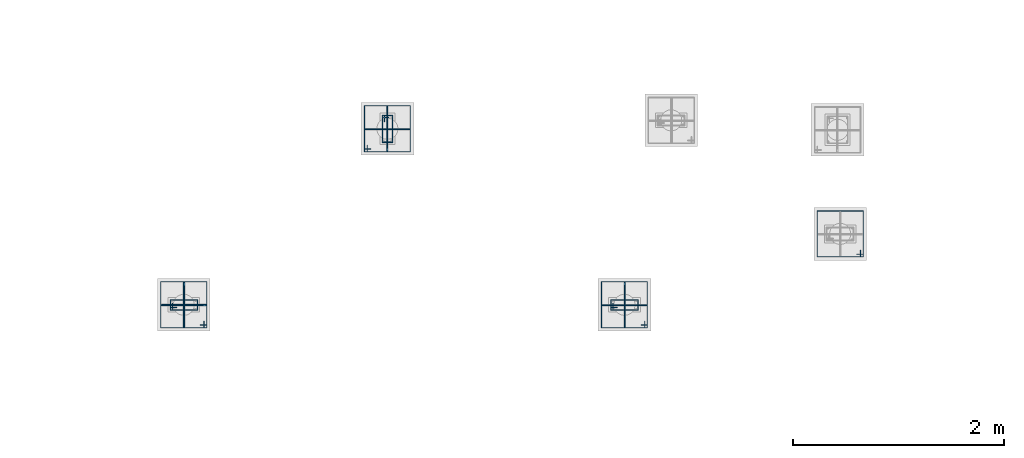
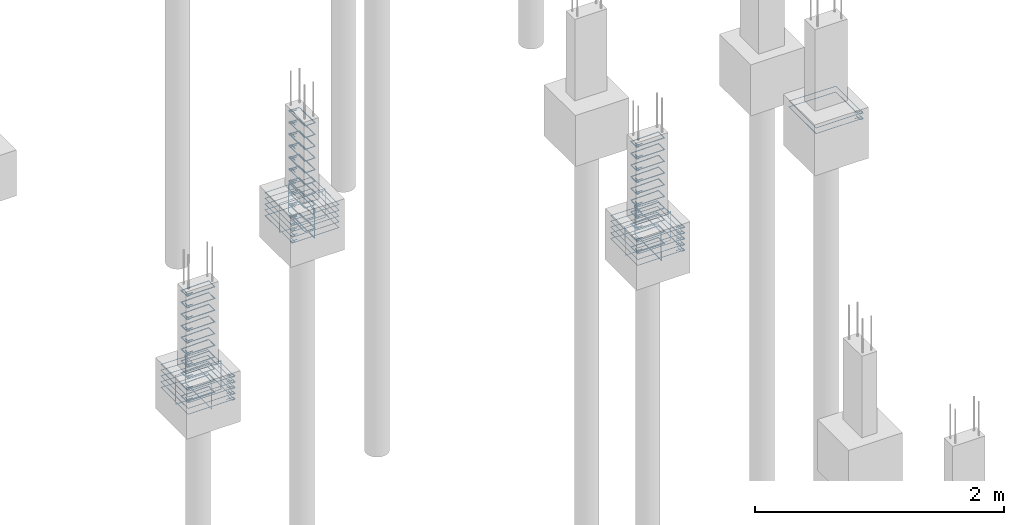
# One storey, part 89 of 119: 53 reinforcing bars.
"""IFC4 building model written with IfcOpenShell, lengths in centimetres."""

from ifc_helpers import new_model, entity, si_unit, derived_unit, frame, origin_with_axes, place, context, project, spatial, source, transform, mapped, element, save


model = new_model("IFC4")

# Units and contexts
model_context = context("Model", 3, precision=1e-05, world=origin_with_axes(), identifier="Body")
ifc_project = project(units=[si_unit("LENGTHUNIT", "METRE", prefix="CENTI"), si_unit("VOLUMEUNIT", "CUBIC_METRE"), si_unit("AREAUNIT", "SQUARE_METRE"), si_unit("POWERUNIT", "WATT"), si_unit("LUMINOUSFLUXUNIT", "LUMEN"), si_unit("ELECTRICCURRENTUNIT", "AMPERE"), si_unit("PRESSUREUNIT", "PASCAL", prefix="KILO"), si_unit("MASSUNIT", "GRAM", prefix="KILO"), si_unit("PLANEANGLEUNIT", "RADIAN"), derived_unit("VOLUMETRICFLOWRATEUNIT", [(si_unit("LENGTHUNIT", "METRE"), 3), (si_unit("TIMEUNIT", "SECOND"), -1)])], contexts=[model_context])

# Site, building, storey
site_placement = place(None, frame((-4000.0, 0.0, 0.0), z_axis=(0.0, 0.0, 1.0), x_axis=(1.0, 0.0, 0.0)))
site = spatial("IfcSite", under=ifc_project, at=site_placement, Name="PADRÃO")
building_placement = place(site_placement, frame((0.0, 0.0, -14.0)))
building = spatial("IfcBuilding", under=site, at=building_placement, Name="CRECHE PRÉ-ESCOLA TIPO 2")
storey_placement = place(building_placement, origin_with_axes())
storey = spatial("IfcBuildingStorey", under=building, at=storey_placement, Name="FUNDAÇÃO", CompositionType="ELEMENT", Elevation=-14.0)

# Reinforcing bars
shared_shape_1 = source(origin_with_axes(), model_context, "Body", "AdvancedSweptSolid", [
    entity("IfcSweptDiskSolid", entity("IfcCompositeCurve", [entity("IfcCompositeCurveSegment", "CONTINUOUS", True, entity("IfcPolyline", [entity("IfcCartesianPoint", [4.25, 21.75, 0.0]), entity("IfcCartesianPoint", [4.25, 27.75, 0.0])])), entity("IfcCompositeCurveSegment", "CONTINUOUS", True, entity("IfcPolyline", [entity("IfcCartesianPoint", [4.25, 27.75, 0.0]), entity("IfcCartesianPoint", [2.25, 27.75, 0.0])])), entity("IfcCompositeCurveSegment", "CONTINUOUS", True, entity("IfcPolyline", [entity("IfcCartesianPoint", [2.25, 27.75, 0.0]), entity("IfcCartesianPoint", [2.25, 2.25, 0.0])])), entity("IfcCompositeCurveSegment", "CONTINUOUS", True, entity("IfcPolyline", [entity("IfcCartesianPoint", [2.25, 2.25, 0.0]), entity("IfcCartesianPoint", [11.75, 2.25, 0.0])])), entity("IfcCompositeCurveSegment", "CONTINUOUS", True, entity("IfcPolyline", [entity("IfcCartesianPoint", [11.75, 2.25, 0.0]), entity("IfcCartesianPoint", [11.75, 27.75, -0.5])])), entity("IfcCompositeCurveSegment", "CONTINUOUS", True, entity("IfcPolyline", [entity("IfcCartesianPoint", [11.75, 27.75, -0.5]), entity("IfcCartesianPoint", [2.25, 27.75, -0.5])])), entity("IfcCompositeCurveSegment", "CONTINUOUS", True, entity("IfcPolyline", [entity("IfcCartesianPoint", [2.25, 27.75, -0.5]), entity("IfcCartesianPoint", [2.25, 25.75, -0.5])])), entity("IfcCompositeCurveSegment", "CONTINUOUS", True, entity("IfcPolyline", [entity("IfcCartesianPoint", [2.25, 25.75, -0.5]), entity("IfcCartesianPoint", [8.25, 25.75, -0.5])]))], False), 0.25),
])
for number, where, z_axis, x_axis, name in (
    (1, (2541.0, 1740.84, -86.25), (0.0, 0.0, 1.0), (0.0, 1.0, 0.0), "P98 - Estribo"),
    (2, (2541.0, 1740.84, -28.75), (0.0, 0.0, 1.0), (0.0, 1.0, 0.0), "P98 - Estribo"),
    (3, (2541.0, 1740.84, -40.25), (0.0, 0.0, 1.0), (0.0, 1.0, 0.0), "P98 - Estribo"),
    (4, (2541.0, 1740.84, -17.25), (0.0, 0.0, 1.0), (0.0, 1.0, 0.0), "P98 - Estribo"),
    (5, (2541.0, 1740.84, -5.75), (0.0, 0.0, 1.0), (0.0, 1.0, 0.0), "P98 - Estribo"),
    (6, (2541.0, 1740.84, -109.25), (0.0, 0.0, 1.0), (0.0, 1.0, 0.0), "P98 - Estribo"),
    (7, (2541.0, 1740.84, -74.75), (0.0, 0.0, 1.0), (0.0, 1.0, 0.0), "P98 - Estribo"),
    (8, (2541.0, 1740.84, -63.25), (0.0, 0.0, 1.0), (0.0, 1.0, 0.0), "P98 - Estribo"),
    (9, (2541.0, 1740.84, -51.75), (0.0, 0.0, 1.0), (0.0, 1.0, 0.0), "P98 - Estribo"),
    (10, (2541.0, 1740.84, -97.75), (0.0, 0.0, 1.0), (0.0, 1.0, 0.0), "P98 - Estribo"),
):
    element("IfcReinforcingBar", number, at=place(storey_placement, frame(where, z_axis=z_axis, x_axis=x_axis)), inside=storey, Name=name, BarLength=0.0, CrossSectionArea=1.9634954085e-05, NominalDiameter=0.5, PredefinedType="MAIN", context=model_context, shape_type="MappedRepresentation", body=[
        mapped(shared_shape_1, transform((0.0, 0.0, 0.0), scale=1.0)),
    ])
shared_shape_2 = source(origin_with_axes(), model_context, "Body", "AdvancedSweptSolid", [
    entity("IfcSweptDiskSolid", entity("IfcCompositeCurve", [entity("IfcCompositeCurveSegment", "CONTINUOUS", True, entity("IfcPolyline", [entity("IfcCartesianPoint", [2545.165, 1732.415, 0.0]), entity("IfcCartesianPoint", [2545.165, 1726.155, 0.0])])), entity("IfcCompositeCurveSegment", "CONTINUOUS", True, entity("IfcPolyline", [entity("IfcCartesianPoint", [2545.165, 1726.155, 0.0]), entity("IfcCartesianPoint", [2547.685, 1726.155, 0.0])])), entity("IfcCompositeCurveSegment", "CONTINUOUS", True, entity("IfcPolyline", [entity("IfcCartesianPoint", [2547.685, 1726.155, 0.0]), entity("IfcCartesianPoint", [2547.685, 1769.525, 0.0])])), entity("IfcCompositeCurveSegment", "CONTINUOUS", True, entity("IfcPolyline", [entity("IfcCartesianPoint", [2547.685, 1769.525, 0.0]), entity("IfcCartesianPoint", [2504.315, 1769.525, 0.63])])), entity("IfcCompositeCurveSegment", "CONTINUOUS", True, entity("IfcPolyline", [entity("IfcCartesianPoint", [2504.315, 1769.525, 0.63]), entity("IfcCartesianPoint", [2504.315, 1726.155, 0.63])])), entity("IfcCompositeCurveSegment", "CONTINUOUS", True, entity("IfcPolyline", [entity("IfcCartesianPoint", [2504.315, 1726.155, 0.63]), entity("IfcCartesianPoint", [2547.685, 1726.155, 0.63])])), entity("IfcCompositeCurveSegment", "CONTINUOUS", True, entity("IfcPolyline", [entity("IfcCartesianPoint", [2547.685, 1726.155, 0.63]), entity("IfcCartesianPoint", [2547.685, 1728.675, 0.63])])), entity("IfcCompositeCurveSegment", "CONTINUOUS", True, entity("IfcPolyline", [entity("IfcCartesianPoint", [2547.685, 1728.675, 0.63]), entity("IfcCartesianPoint", [2541.425, 1728.675, 0.63])]))], False), 0.315),
])
for number, where, z_axis, x_axis, name in (
    (11, (0.0, 0.0, -97.875), (0.0, 0.0, 1.0), (1.0, 0.0, 0.0), "P98 - Blocos (estribos)"),
    (12, (0.0, 0.0, -109.175), (0.0, 0.0, 1.0), (1.0, 0.0, 0.0), "P98 - Blocos (estribos)"),
    (13, (0.0, 0.0, -103.525), (0.0, 0.0, 1.0), (1.0, 0.0, 0.0), "P98 - Blocos (estribos)"),
    (14, (0.0, 0.0, -92.225), (0.0, 0.0, 1.0), (1.0, 0.0, 0.0), "P98 - Blocos (estribos)"),
    (15, (0.0, 0.0, -86.575), (0.0, 0.0, 1.0), (1.0, 0.0, 0.0), "P98 - Blocos (estribos)"),
):
    element("IfcReinforcingBar", number, at=place(storey_placement, frame(where, z_axis=z_axis, x_axis=x_axis)), inside=storey, Name=name, BarLength=0.0, CrossSectionArea=3.1172453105e-05, NominalDiameter=0.63, PredefinedType="MAIN", context=model_context, shape_type="MappedRepresentation", body=[
        mapped(shared_shape_2, transform((0.0, 0.0, 0.0), scale=1.0)),
    ])
shared_shape_3 = source(origin_with_axes(), model_context, "Body", "AdvancedSweptSolid", [
    entity("IfcSweptDiskSolid", entity("IfcCompositeCurve", [entity("IfcCompositeCurveSegment", "CONTINUOUS", True, entity("IfcPolyline", [entity("IfcCartesianPoint", [-14.795, -11.35, 0.0]), entity("IfcCartesianPoint", [-21.055, -11.35, 0.0])])), entity("IfcCompositeCurveSegment", "CONTINUOUS", True, entity("IfcPolyline", [entity("IfcCartesianPoint", [-21.055, -11.35, 0.0]), entity("IfcCartesianPoint", [-21.055, -13.87, 0.0])])), entity("IfcCompositeCurveSegment", "CONTINUOUS", True, entity("IfcPolyline", [entity("IfcCartesianPoint", [-21.055, -13.87, 0.0]), entity("IfcCartesianPoint", [21.055, -13.87, 0.0])])), entity("IfcCompositeCurveSegment", "CONTINUOUS", True, entity("IfcPolyline", [entity("IfcCartesianPoint", [21.055, -13.87, 0.0]), entity("IfcCartesianPoint", [21.055, 13.87, 0.63])])), entity("IfcCompositeCurveSegment", "CONTINUOUS", True, entity("IfcPolyline", [entity("IfcCartesianPoint", [21.055, 13.87, 0.63]), entity("IfcCartesianPoint", [-21.055, 13.87, 0.63])])), entity("IfcCompositeCurveSegment", "CONTINUOUS", True, entity("IfcPolyline", [entity("IfcCartesianPoint", [-21.055, 13.87, 0.63]), entity("IfcCartesianPoint", [-21.055, -13.87, 0.63])])), entity("IfcCompositeCurveSegment", "CONTINUOUS", True, entity("IfcPolyline", [entity("IfcCartesianPoint", [-21.055, -13.87, 0.63]), entity("IfcCartesianPoint", [-18.535, -13.87, 0.63])])), entity("IfcCompositeCurveSegment", "CONTINUOUS", True, entity("IfcPolyline", [entity("IfcCartesianPoint", [-18.535, -13.87, 0.63]), entity("IfcCartesianPoint", [-18.535, -7.61, 0.63])]))], False), 0.315),
])
reinforcing_bar_1_placement = place(storey_placement, frame((2526.0, 1747.84, -97.815), z_axis=(0.0, -1.0, 0.0), x_axis=(-1.0, 0.0, 0.0)))
element("IfcReinforcingBar", 16, at=reinforcing_bar_1_placement, inside=storey, Name="P98 - Blocos (estribos)", BarLength=0.0, CrossSectionArea=3.1172453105e-05, NominalDiameter=0.63, PredefinedType="MAIN", context=model_context, shape_type="MappedRepresentation", body=[
    mapped(shared_shape_3, transform((0.0, 0.0, 0.0), scale=1.0)),
])
shared_shape_4 = source(origin_with_axes(), model_context, "Body", "AdvancedSweptSolid", [
    entity("IfcSweptDiskSolid", entity("IfcCompositeCurve", [entity("IfcCompositeCurveSegment", "CONTINUOUS", True, entity("IfcPolyline", [entity("IfcCartesianPoint", [-14.795, -11.35, 0.0]), entity("IfcCartesianPoint", [-21.055, -11.35, 0.0])])), entity("IfcCompositeCurveSegment", "CONTINUOUS", True, entity("IfcPolyline", [entity("IfcCartesianPoint", [-21.055, -11.35, 0.0]), entity("IfcCartesianPoint", [-21.055, -13.87, 0.0])])), entity("IfcCompositeCurveSegment", "CONTINUOUS", True, entity("IfcPolyline", [entity("IfcCartesianPoint", [-21.055, -13.87, 0.0]), entity("IfcCartesianPoint", [21.055, -13.87, 0.0])])), entity("IfcCompositeCurveSegment", "CONTINUOUS", True, entity("IfcPolyline", [entity("IfcCartesianPoint", [21.055, -13.87, 0.0]), entity("IfcCartesianPoint", [21.055, 13.87, 0.63])])), entity("IfcCompositeCurveSegment", "CONTINUOUS", True, entity("IfcPolyline", [entity("IfcCartesianPoint", [21.055, 13.87, 0.63]), entity("IfcCartesianPoint", [-21.055, 13.87, 0.63])])), entity("IfcCompositeCurveSegment", "CONTINUOUS", True, entity("IfcPolyline", [entity("IfcCartesianPoint", [-21.055, 13.87, 0.63]), entity("IfcCartesianPoint", [-21.055, -13.87, 0.63])])), entity("IfcCompositeCurveSegment", "CONTINUOUS", True, entity("IfcPolyline", [entity("IfcCartesianPoint", [-21.055, -13.87, 0.63]), entity("IfcCartesianPoint", [-18.535, -13.87, 0.63])])), entity("IfcCompositeCurveSegment", "CONTINUOUS", True, entity("IfcPolyline", [entity("IfcCartesianPoint", [-18.535, -13.87, 0.63]), entity("IfcCartesianPoint", [-18.535, -7.61, 0.63])]))], False), 0.315),
])
reinforcing_bar_2_placement = place(storey_placement, frame((2526.0, 1747.84, -97.815), z_axis=(1.0, 0.0, 0.0), x_axis=(0.0, -1.0, 0.0)))
element("IfcReinforcingBar", 17, at=reinforcing_bar_2_placement, inside=storey, Name="P98 - Blocos (estribos)", BarLength=0.0, CrossSectionArea=3.1172453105e-05, NominalDiameter=0.63, PredefinedType="MAIN", context=model_context, shape_type="MappedRepresentation", body=[
    mapped(shared_shape_4, transform((0.0, 0.0, 0.0), scale=1.0)),
])
shared_shape_5 = source(origin_with_axes(), model_context, "Body", "AdvancedSweptSolid", [
    entity("IfcSweptDiskSolid", entity("IfcCompositeCurve", [entity("IfcCompositeCurveSegment", "CONTINUOUS", True, entity("IfcPolyline", [entity("IfcCartesianPoint", [4.25, 21.75, 0.0]), entity("IfcCartesianPoint", [4.25, 27.75, 0.0])])), entity("IfcCompositeCurveSegment", "CONTINUOUS", True, entity("IfcPolyline", [entity("IfcCartesianPoint", [4.25, 27.75, 0.0]), entity("IfcCartesianPoint", [2.25, 27.75, 0.0])])), entity("IfcCompositeCurveSegment", "CONTINUOUS", True, entity("IfcPolyline", [entity("IfcCartesianPoint", [2.25, 27.75, 0.0]), entity("IfcCartesianPoint", [2.25, 2.25, 0.0])])), entity("IfcCompositeCurveSegment", "CONTINUOUS", True, entity("IfcPolyline", [entity("IfcCartesianPoint", [2.25, 2.25, 0.0]), entity("IfcCartesianPoint", [11.75, 2.25, 0.0])])), entity("IfcCompositeCurveSegment", "CONTINUOUS", True, entity("IfcPolyline", [entity("IfcCartesianPoint", [11.75, 2.25, 0.0]), entity("IfcCartesianPoint", [11.75, 27.75, -0.5])])), entity("IfcCompositeCurveSegment", "CONTINUOUS", True, entity("IfcPolyline", [entity("IfcCartesianPoint", [11.75, 27.75, -0.5]), entity("IfcCartesianPoint", [2.25, 27.75, -0.5])])), entity("IfcCompositeCurveSegment", "CONTINUOUS", True, entity("IfcPolyline", [entity("IfcCartesianPoint", [2.25, 27.75, -0.5]), entity("IfcCartesianPoint", [2.25, 25.75, -0.5])])), entity("IfcCompositeCurveSegment", "CONTINUOUS", True, entity("IfcPolyline", [entity("IfcCartesianPoint", [2.25, 25.75, -0.5]), entity("IfcCartesianPoint", [8.25, 25.75, -0.5])]))], False), 0.25),
])
for number, where, z_axis, x_axis, name in (
    (18, (2711.75, 1899.52, -51.75), (0.0, 0.0, 1.0), (1.0, 0.0, 0.0), "P90 - Estribo"),
    (19, (2711.75, 1899.52, -63.25), (0.0, 0.0, 1.0), (1.0, 0.0, 0.0), "P90 - Estribo"),
    (20, (2711.75, 1899.52, -74.75), (0.0, 0.0, 1.0), (1.0, 0.0, 0.0), "P90 - Estribo"),
    (21, (2711.75, 1899.52, -86.25), (0.0, 0.0, 1.0), (1.0, 0.0, 0.0), "P90 - Estribo"),
    (22, (2711.75, 1899.52, -97.75), (0.0, 0.0, 1.0), (1.0, 0.0, 0.0), "P90 - Estribo"),
    (23, (2711.75, 1899.52, -109.25), (0.0, 0.0, 1.0), (1.0, 0.0, 0.0), "P90 - Estribo"),
    (24, (2711.75, 1899.52, -40.25), (0.0, 0.0, 1.0), (1.0, 0.0, 0.0), "P90 - Estribo"),
    (25, (2711.75, 1899.52, -5.75), (0.0, 0.0, 1.0), (1.0, 0.0, 0.0), "P90 - Estribo"),
    (26, (2711.75, 1899.52, -17.25), (0.0, 0.0, 1.0), (1.0, 0.0, 0.0), "P90 - Estribo"),
    (27, (2711.75, 1899.52, -28.75), (0.0, 0.0, 1.0), (1.0, 0.0, 0.0), "P90 - Estribo"),
):
    element("IfcReinforcingBar", number, at=place(storey_placement, frame(where, z_axis=z_axis, x_axis=x_axis)), inside=storey, Name=name, BarLength=0.0, CrossSectionArea=1.9634954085e-05, NominalDiameter=0.5, PredefinedType="MAIN", context=model_context, shape_type="MappedRepresentation", body=[
        mapped(shared_shape_5, transform((0.0, 0.0, 0.0), scale=1.0)),
    ])
shared_shape_6 = source(origin_with_axes(), model_context, "Body", "AdvancedSweptSolid", [
    entity("IfcSweptDiskSolid", entity("IfcCompositeCurve", [entity("IfcCompositeCurveSegment", "CONTINUOUS", True, entity("IfcPolyline", [entity("IfcCartesianPoint", [2703.325, 1895.355, 0.0]), entity("IfcCartesianPoint", [2697.065, 1895.355, 0.0])])), entity("IfcCompositeCurveSegment", "CONTINUOUS", True, entity("IfcPolyline", [entity("IfcCartesianPoint", [2697.065, 1895.355, 0.0]), entity("IfcCartesianPoint", [2697.065, 1892.835, 0.0])])), entity("IfcCompositeCurveSegment", "CONTINUOUS", True, entity("IfcPolyline", [entity("IfcCartesianPoint", [2697.065, 1892.835, 0.0]), entity("IfcCartesianPoint", [2740.435, 1892.835, 0.0])])), entity("IfcCompositeCurveSegment", "CONTINUOUS", True, entity("IfcPolyline", [entity("IfcCartesianPoint", [2740.435, 1892.835, 0.0]), entity("IfcCartesianPoint", [2740.435, 1936.205, 0.63])])), entity("IfcCompositeCurveSegment", "CONTINUOUS", True, entity("IfcPolyline", [entity("IfcCartesianPoint", [2740.435, 1936.205, 0.63]), entity("IfcCartesianPoint", [2697.065, 1936.205, 0.63])])), entity("IfcCompositeCurveSegment", "CONTINUOUS", True, entity("IfcPolyline", [entity("IfcCartesianPoint", [2697.065, 1936.205, 0.63]), entity("IfcCartesianPoint", [2697.065, 1892.835, 0.63])])), entity("IfcCompositeCurveSegment", "CONTINUOUS", True, entity("IfcPolyline", [entity("IfcCartesianPoint", [2697.065, 1892.835, 0.63]), entity("IfcCartesianPoint", [2699.585, 1892.835, 0.63])])), entity("IfcCompositeCurveSegment", "CONTINUOUS", True, entity("IfcPolyline", [entity("IfcCartesianPoint", [2699.585, 1892.835, 0.63]), entity("IfcCartesianPoint", [2699.585, 1899.095, 0.63])]))], False), 0.315),
])
for number, where, z_axis, x_axis, name in (
    (28, (0.0, 0.0, -109.175), (0.0, 0.0, 1.0), (1.0, 0.0, 0.0), "P90 - Blocos (estribos)"),
    (29, (0.0, 0.0, -103.525), (0.0, 0.0, 1.0), (1.0, 0.0, 0.0), "P90 - Blocos (estribos)"),
    (30, (0.0, 0.0, -97.875), (0.0, 0.0, 1.0), (1.0, 0.0, 0.0), "P90 - Blocos (estribos)"),
    (31, (0.0, 0.0, -92.225), (0.0, 0.0, 1.0), (1.0, 0.0, 0.0), "P90 - Blocos (estribos)"),
    (32, (0.0, 0.0, -86.575), (0.0, 0.0, 1.0), (1.0, 0.0, 0.0), "P90 - Blocos (estribos)"),
):
    element("IfcReinforcingBar", number, at=place(storey_placement, frame(where, z_axis=z_axis, x_axis=x_axis)), inside=storey, Name=name, BarLength=0.0, CrossSectionArea=3.1172453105e-05, NominalDiameter=0.63, PredefinedType="MAIN", context=model_context, shape_type="MappedRepresentation", body=[
        mapped(shared_shape_6, transform((0.0, 0.0, 0.0), scale=1.0)),
    ])
shared_shape_7 = source(origin_with_axes(), model_context, "Body", "AdvancedSweptSolid", [
    entity("IfcSweptDiskSolid", entity("IfcCompositeCurve", [entity("IfcCompositeCurveSegment", "CONTINUOUS", True, entity("IfcPolyline", [entity("IfcCartesianPoint", [-15.12, -12.0, 0.0]), entity("IfcCartesianPoint", [-21.12, -12.0, 0.0])])), entity("IfcCompositeCurveSegment", "CONTINUOUS", True, entity("IfcPolyline", [entity("IfcCartesianPoint", [-21.12, -12.0, 0.0]), entity("IfcCartesianPoint", [-21.12, -14.0, 0.0])])), entity("IfcCompositeCurveSegment", "CONTINUOUS", True, entity("IfcPolyline", [entity("IfcCartesianPoint", [-21.12, -14.0, 0.0]), entity("IfcCartesianPoint", [21.12, -14.0, 0.0])])), entity("IfcCompositeCurveSegment", "CONTINUOUS", True, entity("IfcPolyline", [entity("IfcCartesianPoint", [21.12, -14.0, 0.0]), entity("IfcCartesianPoint", [21.12, 14.0, 0.5])])), entity("IfcCompositeCurveSegment", "CONTINUOUS", True, entity("IfcPolyline", [entity("IfcCartesianPoint", [21.12, 14.0, 0.5]), entity("IfcCartesianPoint", [-21.12, 14.0, 0.5])])), entity("IfcCompositeCurveSegment", "CONTINUOUS", True, entity("IfcPolyline", [entity("IfcCartesianPoint", [-21.12, 14.0, 0.5]), entity("IfcCartesianPoint", [-21.12, -14.0, 0.5])])), entity("IfcCompositeCurveSegment", "CONTINUOUS", True, entity("IfcPolyline", [entity("IfcCartesianPoint", [-21.12, -14.0, 0.5]), entity("IfcCartesianPoint", [-19.12, -14.0, 0.5])])), entity("IfcCompositeCurveSegment", "CONTINUOUS", True, entity("IfcPolyline", [entity("IfcCartesianPoint", [-19.12, -14.0, 0.5]), entity("IfcCartesianPoint", [-19.12, -8.0, 0.5])]))], False), 0.25),
])
reinforcing_bar_3_placement = place(storey_placement, frame((2718.75, 1914.52, -97.75), z_axis=(-1.0, 0.0, 0.0), x_axis=(0.0, 1.0, 0.0)))
element("IfcReinforcingBar", 33, at=reinforcing_bar_3_placement, inside=storey, Name="P90 - Blocos (estribos)", BarLength=0.0, CrossSectionArea=1.9634954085e-05, NominalDiameter=0.5, PredefinedType="MAIN", context=model_context, shape_type="MappedRepresentation", body=[
    mapped(shared_shape_7, transform((0.0, 0.0, 0.0), scale=1.0)),
])
shared_shape_8 = source(origin_with_axes(), model_context, "Body", "AdvancedSweptSolid", [
    entity("IfcSweptDiskSolid", entity("IfcCompositeCurve", [entity("IfcCompositeCurveSegment", "CONTINUOUS", True, entity("IfcPolyline", [entity("IfcCartesianPoint", [-15.12, -12.0, 0.0]), entity("IfcCartesianPoint", [-21.12, -12.0, 0.0])])), entity("IfcCompositeCurveSegment", "CONTINUOUS", True, entity("IfcPolyline", [entity("IfcCartesianPoint", [-21.12, -12.0, 0.0]), entity("IfcCartesianPoint", [-21.12, -14.0, 0.0])])), entity("IfcCompositeCurveSegment", "CONTINUOUS", True, entity("IfcPolyline", [entity("IfcCartesianPoint", [-21.12, -14.0, 0.0]), entity("IfcCartesianPoint", [21.12, -14.0, 0.0])])), entity("IfcCompositeCurveSegment", "CONTINUOUS", True, entity("IfcPolyline", [entity("IfcCartesianPoint", [21.12, -14.0, 0.0]), entity("IfcCartesianPoint", [21.12, 14.0, 0.5])])), entity("IfcCompositeCurveSegment", "CONTINUOUS", True, entity("IfcPolyline", [entity("IfcCartesianPoint", [21.12, 14.0, 0.5]), entity("IfcCartesianPoint", [-21.12, 14.0, 0.5])])), entity("IfcCompositeCurveSegment", "CONTINUOUS", True, entity("IfcPolyline", [entity("IfcCartesianPoint", [-21.12, 14.0, 0.5]), entity("IfcCartesianPoint", [-21.12, -14.0, 0.5])])), entity("IfcCompositeCurveSegment", "CONTINUOUS", True, entity("IfcPolyline", [entity("IfcCartesianPoint", [-21.12, -14.0, 0.5]), entity("IfcCartesianPoint", [-19.12, -14.0, 0.5])])), entity("IfcCompositeCurveSegment", "CONTINUOUS", True, entity("IfcPolyline", [entity("IfcCartesianPoint", [-19.12, -14.0, 0.5]), entity("IfcCartesianPoint", [-19.12, -8.0, 0.5])]))], False), 0.25),
])
reinforcing_bar_4_placement = place(storey_placement, frame((2718.75, 1914.52, -97.75), z_axis=(0.0, -1.0, 0.0), x_axis=(-1.0, 0.0, 0.0)))
element("IfcReinforcingBar", 34, at=reinforcing_bar_4_placement, inside=storey, Name="P90 - Blocos (estribos)", BarLength=0.0, CrossSectionArea=1.9634954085e-05, NominalDiameter=0.5, PredefinedType="MAIN", context=model_context, shape_type="MappedRepresentation", body=[
    mapped(shared_shape_8, transform((0.0, 0.0, 0.0), scale=1.0)),
])
shared_shape_9 = source(origin_with_axes(), model_context, "Body", "AdvancedSweptSolid", [
    entity("IfcSweptDiskSolid", entity("IfcCompositeCurve", [entity("IfcCompositeCurveSegment", "CONTINUOUS", True, entity("IfcPolyline", [entity("IfcCartesianPoint", [4.25, 21.75, 0.0]), entity("IfcCartesianPoint", [4.25, 27.75, 0.0])])), entity("IfcCompositeCurveSegment", "CONTINUOUS", True, entity("IfcPolyline", [entity("IfcCartesianPoint", [4.25, 27.75, 0.0]), entity("IfcCartesianPoint", [2.25, 27.75, 0.0])])), entity("IfcCompositeCurveSegment", "CONTINUOUS", True, entity("IfcPolyline", [entity("IfcCartesianPoint", [2.25, 27.75, 0.0]), entity("IfcCartesianPoint", [2.25, 2.25, 0.0])])), entity("IfcCompositeCurveSegment", "CONTINUOUS", True, entity("IfcPolyline", [entity("IfcCartesianPoint", [2.25, 2.25, 0.0]), entity("IfcCartesianPoint", [11.75, 2.25, 0.0])])), entity("IfcCompositeCurveSegment", "CONTINUOUS", True, entity("IfcPolyline", [entity("IfcCartesianPoint", [11.75, 2.25, 0.0]), entity("IfcCartesianPoint", [11.75, 27.75, -0.5])])), entity("IfcCompositeCurveSegment", "CONTINUOUS", True, entity("IfcPolyline", [entity("IfcCartesianPoint", [11.75, 27.75, -0.5]), entity("IfcCartesianPoint", [2.25, 27.75, -0.5])])), entity("IfcCompositeCurveSegment", "CONTINUOUS", True, entity("IfcPolyline", [entity("IfcCartesianPoint", [2.25, 27.75, -0.5]), entity("IfcCartesianPoint", [2.25, 25.75, -0.5])])), entity("IfcCompositeCurveSegment", "CONTINUOUS", True, entity("IfcPolyline", [entity("IfcCartesianPoint", [2.25, 25.75, -0.5]), entity("IfcCartesianPoint", [8.25, 25.75, -0.5])]))], False), 0.25),
])
for number, where, z_axis, x_axis, name in (
    (35, (2958.24, 1740.84, -17.25), (0.0, 0.0, 1.0), (0.0, 1.0, 0.0), "P99 - Estribo"),
    (36, (2958.24, 1740.84, -51.75), (0.0, 0.0, 1.0), (0.0, 1.0, 0.0), "P99 - Estribo"),
    (37, (2958.24, 1740.84, -63.25), (0.0, 0.0, 1.0), (0.0, 1.0, 0.0), "P99 - Estribo"),
    (38, (2958.24, 1740.84, -74.75), (0.0, 0.0, 1.0), (0.0, 1.0, 0.0), "P99 - Estribo"),
    (39, (2958.24, 1740.84, -86.25), (0.0, 0.0, 1.0), (0.0, 1.0, 0.0), "P99 - Estribo"),
    (40, (2958.24, 1740.84, -109.25), (0.0, 0.0, 1.0), (0.0, 1.0, 0.0), "P99 - Estribo"),
    (41, (2958.24, 1740.84, -97.75), (0.0, 0.0, 1.0), (0.0, 1.0, 0.0), "P99 - Estribo"),
    (42, (2958.24, 1740.84, -5.75), (0.0, 0.0, 1.0), (0.0, 1.0, 0.0), "P99 - Estribo"),
    (43, (2958.24, 1740.84, -40.25), (0.0, 0.0, 1.0), (0.0, 1.0, 0.0), "P99 - Estribo"),
    (44, (2958.24, 1740.84, -28.75), (0.0, 0.0, 1.0), (0.0, 1.0, 0.0), "P99 - Estribo"),
):
    element("IfcReinforcingBar", number, at=place(storey_placement, frame(where, z_axis=z_axis, x_axis=x_axis)), inside=storey, Name=name, BarLength=0.0, CrossSectionArea=1.9634954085e-05, NominalDiameter=0.5, PredefinedType="MAIN", context=model_context, shape_type="MappedRepresentation", body=[
        mapped(shared_shape_9, transform((0.0, 0.0, 0.0), scale=1.0)),
    ])
shared_shape_10 = source(origin_with_axes(), model_context, "Body", "AdvancedSweptSolid", [
    entity("IfcSweptDiskSolid", entity("IfcCompositeCurve", [entity("IfcCompositeCurveSegment", "CONTINUOUS", True, entity("IfcPolyline", [entity("IfcCartesianPoint", [2962.405, 1732.415, 0.0]), entity("IfcCartesianPoint", [2962.405, 1726.155, 0.0])])), entity("IfcCompositeCurveSegment", "CONTINUOUS", True, entity("IfcPolyline", [entity("IfcCartesianPoint", [2962.405, 1726.155, 0.0]), entity("IfcCartesianPoint", [2964.925, 1726.155, 0.0])])), entity("IfcCompositeCurveSegment", "CONTINUOUS", True, entity("IfcPolyline", [entity("IfcCartesianPoint", [2964.925, 1726.155, 0.0]), entity("IfcCartesianPoint", [2964.925, 1769.525, 0.0])])), entity("IfcCompositeCurveSegment", "CONTINUOUS", True, entity("IfcPolyline", [entity("IfcCartesianPoint", [2964.925, 1769.525, 0.0]), entity("IfcCartesianPoint", [2921.555, 1769.525, 0.63])])), entity("IfcCompositeCurveSegment", "CONTINUOUS", True, entity("IfcPolyline", [entity("IfcCartesianPoint", [2921.555, 1769.525, 0.63]), entity("IfcCartesianPoint", [2921.555, 1726.155, 0.63])])), entity("IfcCompositeCurveSegment", "CONTINUOUS", True, entity("IfcPolyline", [entity("IfcCartesianPoint", [2921.555, 1726.155, 0.63]), entity("IfcCartesianPoint", [2964.925, 1726.155, 0.63])])), entity("IfcCompositeCurveSegment", "CONTINUOUS", True, entity("IfcPolyline", [entity("IfcCartesianPoint", [2964.925, 1726.155, 0.63]), entity("IfcCartesianPoint", [2964.925, 1728.675, 0.63])])), entity("IfcCompositeCurveSegment", "CONTINUOUS", True, entity("IfcPolyline", [entity("IfcCartesianPoint", [2964.925, 1728.675, 0.63]), entity("IfcCartesianPoint", [2958.665, 1728.675, 0.63])]))], False), 0.315),
])
for number, where, z_axis, x_axis, name in (
    (45, (0.0, 0.0, -86.575), (0.0, 0.0, 1.0), (1.0, 0.0, 0.0), "P99 - Blocos (estribos)"),
    (46, (0.0, 0.0, -97.875), (0.0, 0.0, 1.0), (1.0, 0.0, 0.0), "P99 - Blocos (estribos)"),
    (47, (0.0, 0.0, -109.175), (0.0, 0.0, 1.0), (1.0, 0.0, 0.0), "P99 - Blocos (estribos)"),
    (48, (0.0, 0.0, -92.225), (0.0, 0.0, 1.0), (1.0, 0.0, 0.0), "P99 - Blocos (estribos)"),
    (49, (0.0, 0.0, -103.525), (0.0, 0.0, 1.0), (1.0, 0.0, 0.0), "P99 - Blocos (estribos)"),
):
    element("IfcReinforcingBar", number, at=place(storey_placement, frame(where, z_axis=z_axis, x_axis=x_axis)), inside=storey, Name=name, BarLength=0.0, CrossSectionArea=3.1172453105e-05, NominalDiameter=0.63, PredefinedType="MAIN", context=model_context, shape_type="MappedRepresentation", body=[
        mapped(shared_shape_10, transform((0.0, 0.0, 0.0), scale=1.0)),
    ])
shared_shape_11 = source(origin_with_axes(), model_context, "Body", "AdvancedSweptSolid", [
    entity("IfcSweptDiskSolid", entity("IfcCompositeCurve", [entity("IfcCompositeCurveSegment", "CONTINUOUS", True, entity("IfcPolyline", [entity("IfcCartesianPoint", [-15.12, -12.0, 0.0]), entity("IfcCartesianPoint", [-21.12, -12.0, 0.0])])), entity("IfcCompositeCurveSegment", "CONTINUOUS", True, entity("IfcPolyline", [entity("IfcCartesianPoint", [-21.12, -12.0, 0.0]), entity("IfcCartesianPoint", [-21.12, -14.0, 0.0])])), entity("IfcCompositeCurveSegment", "CONTINUOUS", True, entity("IfcPolyline", [entity("IfcCartesianPoint", [-21.12, -14.0, 0.0]), entity("IfcCartesianPoint", [21.12, -14.0, 0.0])])), entity("IfcCompositeCurveSegment", "CONTINUOUS", True, entity("IfcPolyline", [entity("IfcCartesianPoint", [21.12, -14.0, 0.0]), entity("IfcCartesianPoint", [21.12, 14.0, 0.5])])), entity("IfcCompositeCurveSegment", "CONTINUOUS", True, entity("IfcPolyline", [entity("IfcCartesianPoint", [21.12, 14.0, 0.5]), entity("IfcCartesianPoint", [-21.12, 14.0, 0.5])])), entity("IfcCompositeCurveSegment", "CONTINUOUS", True, entity("IfcPolyline", [entity("IfcCartesianPoint", [-21.12, 14.0, 0.5]), entity("IfcCartesianPoint", [-21.12, -14.0, 0.5])])), entity("IfcCompositeCurveSegment", "CONTINUOUS", True, entity("IfcPolyline", [entity("IfcCartesianPoint", [-21.12, -14.0, 0.5]), entity("IfcCartesianPoint", [-19.12, -14.0, 0.5])])), entity("IfcCompositeCurveSegment", "CONTINUOUS", True, entity("IfcPolyline", [entity("IfcCartesianPoint", [-19.12, -14.0, 0.5]), entity("IfcCartesianPoint", [-19.12, -8.0, 0.5])]))], False), 0.25),
])
reinforcing_bar_5_placement = place(storey_placement, frame((2943.24, 1747.84, -97.75), z_axis=(0.0, -1.0, 0.0), x_axis=(-1.0, 0.0, 0.0)))
element("IfcReinforcingBar", 50, at=reinforcing_bar_5_placement, inside=storey, Name="P99 - Blocos (estribos)", BarLength=0.0, CrossSectionArea=1.9634954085e-05, NominalDiameter=0.5, PredefinedType="MAIN", context=model_context, shape_type="MappedRepresentation", body=[
    mapped(shared_shape_11, transform((0.0, 0.0, 0.0), scale=1.0)),
])
shared_shape_12 = source(origin_with_axes(), model_context, "Body", "AdvancedSweptSolid", [
    entity("IfcSweptDiskSolid", entity("IfcCompositeCurve", [entity("IfcCompositeCurveSegment", "CONTINUOUS", True, entity("IfcPolyline", [entity("IfcCartesianPoint", [-15.12, -12.0, 0.0]), entity("IfcCartesianPoint", [-21.12, -12.0, 0.0])])), entity("IfcCompositeCurveSegment", "CONTINUOUS", True, entity("IfcPolyline", [entity("IfcCartesianPoint", [-21.12, -12.0, 0.0]), entity("IfcCartesianPoint", [-21.12, -14.0, 0.0])])), entity("IfcCompositeCurveSegment", "CONTINUOUS", True, entity("IfcPolyline", [entity("IfcCartesianPoint", [-21.12, -14.0, 0.0]), entity("IfcCartesianPoint", [21.12, -14.0, 0.0])])), entity("IfcCompositeCurveSegment", "CONTINUOUS", True, entity("IfcPolyline", [entity("IfcCartesianPoint", [21.12, -14.0, 0.0]), entity("IfcCartesianPoint", [21.12, 14.0, 0.5])])), entity("IfcCompositeCurveSegment", "CONTINUOUS", True, entity("IfcPolyline", [entity("IfcCartesianPoint", [21.12, 14.0, 0.5]), entity("IfcCartesianPoint", [-21.12, 14.0, 0.5])])), entity("IfcCompositeCurveSegment", "CONTINUOUS", True, entity("IfcPolyline", [entity("IfcCartesianPoint", [-21.12, 14.0, 0.5]), entity("IfcCartesianPoint", [-21.12, -14.0, 0.5])])), entity("IfcCompositeCurveSegment", "CONTINUOUS", True, entity("IfcPolyline", [entity("IfcCartesianPoint", [-21.12, -14.0, 0.5]), entity("IfcCartesianPoint", [-19.12, -14.0, 0.5])])), entity("IfcCompositeCurveSegment", "CONTINUOUS", True, entity("IfcPolyline", [entity("IfcCartesianPoint", [-19.12, -14.0, 0.5]), entity("IfcCartesianPoint", [-19.12, -8.0, 0.5])]))], False), 0.25),
])
reinforcing_bar_6_placement = place(storey_placement, frame((2943.24, 1747.84, -97.75), z_axis=(1.0, 0.0, 0.0), x_axis=(0.0, -1.0, 0.0)))
element("IfcReinforcingBar", 51, at=reinforcing_bar_6_placement, inside=storey, Name="P99 - Blocos (estribos)", BarLength=0.0, CrossSectionArea=1.9634954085e-05, NominalDiameter=0.5, PredefinedType="MAIN", context=model_context, shape_type="MappedRepresentation", body=[
    mapped(shared_shape_12, transform((0.0, 0.0, 0.0), scale=1.0)),
])
shared_shape_13 = source(origin_with_axes(), model_context, "Body", "AdvancedSweptSolid", [
    entity("IfcSweptDiskSolid", entity("IfcCompositeCurve", [entity("IfcCompositeCurveSegment", "CONTINUOUS", True, entity("IfcPolyline", [entity("IfcCartesianPoint", [3166.665, 1799.595, 0.0]), entity("IfcCartesianPoint", [3166.665, 1793.335, 0.0])])), entity("IfcCompositeCurveSegment", "CONTINUOUS", True, entity("IfcPolyline", [entity("IfcCartesianPoint", [3166.665, 1793.335, 0.0]), entity("IfcCartesianPoint", [3169.185, 1793.335, 0.0])])), entity("IfcCompositeCurveSegment", "CONTINUOUS", True, entity("IfcPolyline", [entity("IfcCartesianPoint", [3169.185, 1793.335, 0.0]), entity("IfcCartesianPoint", [3169.185, 1836.705, 0.0])])), entity("IfcCompositeCurveSegment", "CONTINUOUS", True, entity("IfcPolyline", [entity("IfcCartesianPoint", [3169.185, 1836.705, 0.0]), entity("IfcCartesianPoint", [3125.815, 1836.705, 0.63])])), entity("IfcCompositeCurveSegment", "CONTINUOUS", True, entity("IfcPolyline", [entity("IfcCartesianPoint", [3125.815, 1836.705, 0.63]), entity("IfcCartesianPoint", [3125.815, 1793.335, 0.63])])), entity("IfcCompositeCurveSegment", "CONTINUOUS", True, entity("IfcPolyline", [entity("IfcCartesianPoint", [3125.815, 1793.335, 0.63]), entity("IfcCartesianPoint", [3169.185, 1793.335, 0.63])])), entity("IfcCompositeCurveSegment", "CONTINUOUS", True, entity("IfcPolyline", [entity("IfcCartesianPoint", [3169.185, 1793.335, 0.63]), entity("IfcCartesianPoint", [3169.185, 1795.855, 0.63])])), entity("IfcCompositeCurveSegment", "CONTINUOUS", True, entity("IfcPolyline", [entity("IfcCartesianPoint", [3169.185, 1795.855, 0.63]), entity("IfcCartesianPoint", [3162.925, 1795.855, 0.63])]))], False), 0.315),
])
for number, where, z_axis, x_axis, name in (
    (52, (0.0, 0.0, -92.225), (0.0, 0.0, 1.0), (1.0, 0.0, 0.0), "P96 - Blocos (estribos)"),
    (53, (0.0, 0.0, -86.575), (0.0, 0.0, 1.0), (1.0, 0.0, 0.0), "P96 - Blocos (estribos)"),
):
    element("IfcReinforcingBar", number, at=place(storey_placement, frame(where, z_axis=z_axis, x_axis=x_axis)), inside=storey, Name=name, BarLength=0.0, CrossSectionArea=3.1172453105e-05, NominalDiameter=0.63, PredefinedType="MAIN", context=model_context, shape_type="MappedRepresentation", body=[
        mapped(shared_shape_13, transform((0.0, 0.0, 0.0), scale=1.0)),
    ])

save(model, "model.ifc")
